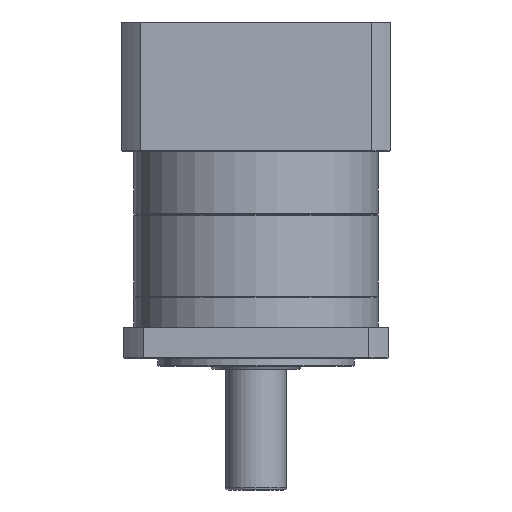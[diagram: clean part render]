
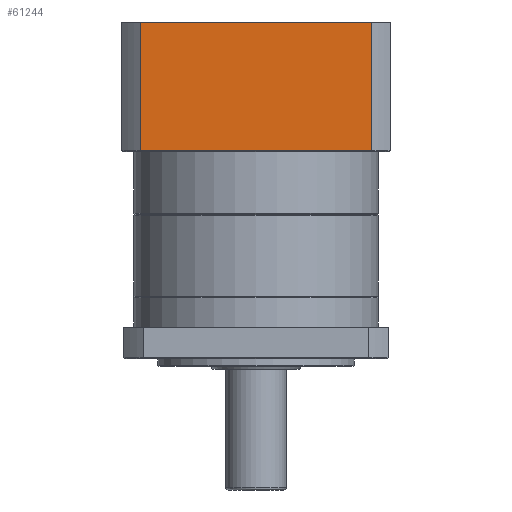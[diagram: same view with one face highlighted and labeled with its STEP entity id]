
A CAD part, front view. The second image highlights one B-rep face of the part: STEP entity #61244.
In plain terms, the highlighted planar face has unit normal (0, -1, 0).
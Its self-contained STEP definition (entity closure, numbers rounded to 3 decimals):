
#1009 = LINE ( 'NONE', #87642, #77473 ) ;
#2611 = AXIS2_PLACEMENT_3D ( 'NONE', #8466, #50349, #38039 ) ;
#3347 = LINE ( 'NONE', #44662, #34293 ) ;
#3615 = ORIENTED_EDGE ( 'NONE', *, *, #82903, .F. ) ;
#8466 = CARTESIAN_POINT ( 'NONE',  ( -4.632, 10.904, 58.43 ) ) ;
#12005 = VECTOR ( 'NONE', #83285, 1000. ) ;
#16804 = CARTESIAN_POINT ( 'NONE',  ( -170.348, 10.904, -27.07 ) ) ;
#19487 = EDGE_CURVE ( 'NONE', #27495, #88057, #60784, .T. ) ;
#23345 = LINE ( 'NONE', #78967, #83515 ) ;
#25500 = DIRECTION ( 'NONE',  ( -1., 0., 0. ) ) ;
#27495 = VERTEX_POINT ( 'NONE', #81522 ) ;
#34293 = VECTOR ( 'NONE', #25500, 1000. ) ;
#38039 = DIRECTION ( 'NONE',  ( 1., 0., 0. ) ) ;
#40645 = VERTEX_POINT ( 'NONE', #115222 ) ;
#44662 = CARTESIAN_POINT ( 'NONE',  ( -4.632, 10.904, -27.07 ) ) ;
#47989 = ORIENTED_EDGE ( 'NONE', *, *, #19487, .F. ) ;
#50349 = DIRECTION ( 'NONE',  ( 0., 1., 0. ) ) ;
#56204 = DIRECTION ( 'NONE',  ( 0., 0., 1. ) ) ;
#60784 = LINE ( 'NONE', #61887, #12005 ) ;
#61244 = ADVANCED_FACE ( 'NONE', ( #113995 ), #130414, .F. ) ;
#61887 = CARTESIAN_POINT ( 'NONE',  ( -93.632, 10.904, 57.93 ) ) ;
#63786 = CARTESIAN_POINT ( 'NONE',  ( -16.917, 10.904, 57.93 ) ) ;
#66278 = DIRECTION ( 'NONE',  ( 0., 0., -1. ) ) ;
#77473 = VECTOR ( 'NONE', #66278, 1000. ) ;
#78967 = CARTESIAN_POINT ( 'NONE',  ( -170.348, 10.904, 58.43 ) ) ;
#81522 = CARTESIAN_POINT ( 'NONE',  ( -170.348, 10.904, 57.93 ) ) ;
#82903 = EDGE_CURVE ( 'NONE', #40645, #115768, #3347, .T. ) ;
#83285 = DIRECTION ( 'NONE',  ( 1., 0., 0. ) ) ;
#83451 = EDGE_LOOP ( 'NONE', ( #98474, #3615, #109537, #47989 ) ) ;
#83515 = VECTOR ( 'NONE', #56204, 1000. ) ;
#87642 = CARTESIAN_POINT ( 'NONE',  ( -16.917, 10.904, -363.234 ) ) ;
#88057 = VERTEX_POINT ( 'NONE', #63786 ) ;
#98474 = ORIENTED_EDGE ( 'NONE', *, *, #117675, .F. ) ;
#109537 = ORIENTED_EDGE ( 'NONE', *, *, #111128, .F. ) ;
#111128 = EDGE_CURVE ( 'NONE', #88057, #40645, #1009, .T. ) ;
#113995 = FACE_OUTER_BOUND ( 'NONE', #83451, .T. ) ;
#115222 = CARTESIAN_POINT ( 'NONE',  ( -16.917, 10.904, -27.07 ) ) ;
#115768 = VERTEX_POINT ( 'NONE', #16804 ) ;
#117675 = EDGE_CURVE ( 'NONE', #115768, #27495, #23345, .T. ) ;
#130414 = PLANE ( 'NONE',  #2611 ) ;
